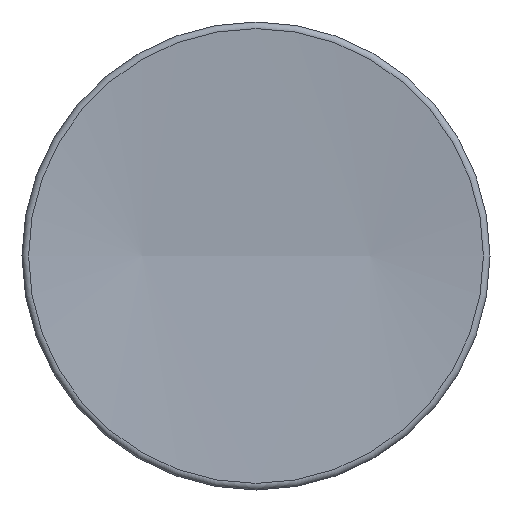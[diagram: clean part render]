
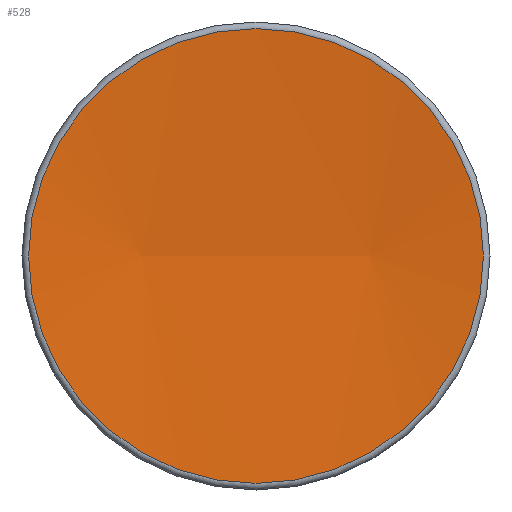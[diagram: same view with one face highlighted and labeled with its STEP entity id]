
A CAD part, front view. The second image highlights one B-rep face of the part: STEP entity #528.
In plain terms, the highlighted spherical face has radius 600 mm.
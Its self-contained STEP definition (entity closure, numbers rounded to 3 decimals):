
#24=SPHERICAL_SURFACE('',#736,600.);
#92=FACE_OUTER_BOUND('',#115,.T.);
#115=EDGE_LOOP('',(#505,#506));
#263=VERTEX_POINT('',#1583);
#264=VERTEX_POINT('',#1584);
#370=EDGE_CURVE('',#263,#264,#633,.T.);
#371=EDGE_CURVE('',#264,#263,#634,.T.);
#505=ORIENTED_EDGE('',*,*,#370,.T.);
#506=ORIENTED_EDGE('',*,*,#371,.T.);
#528=ADVANCED_FACE('',(#92),#24,.F.);
#633=CIRCLE('',#733,77.741);
#634=CIRCLE('',#734,77.741);
#733=AXIS2_PLACEMENT_3D('',#1585,#910,#911);
#734=AXIS2_PLACEMENT_3D('',#1586,#912,#913);
#736=AXIS2_PLACEMENT_3D('',#1588,#916,#917);
#910=DIRECTION('center_axis',(0.,-1.,0.));
#911=DIRECTION('ref_axis',(-1.,0.,0.));
#912=DIRECTION('center_axis',(0.,-1.,0.));
#913=DIRECTION('ref_axis',(-1.,0.,0.));
#916=DIRECTION('center_axis',(0.,0.,
1.));
#917=DIRECTION('ref_axis',(-1.,0.,0.));
#1583=CARTESIAN_POINT('',(0.,-698.633,77.741));
#1584=CARTESIAN_POINT('',(0.,-698.633,-77.741));
#1585=CARTESIAN_POINT('Origin',(0.,-698.633,
0.));
#1586=CARTESIAN_POINT('Origin',(0.,-698.633,
0.));
#1588=CARTESIAN_POINT('Origin',(0.,-1293.575,
0.));
